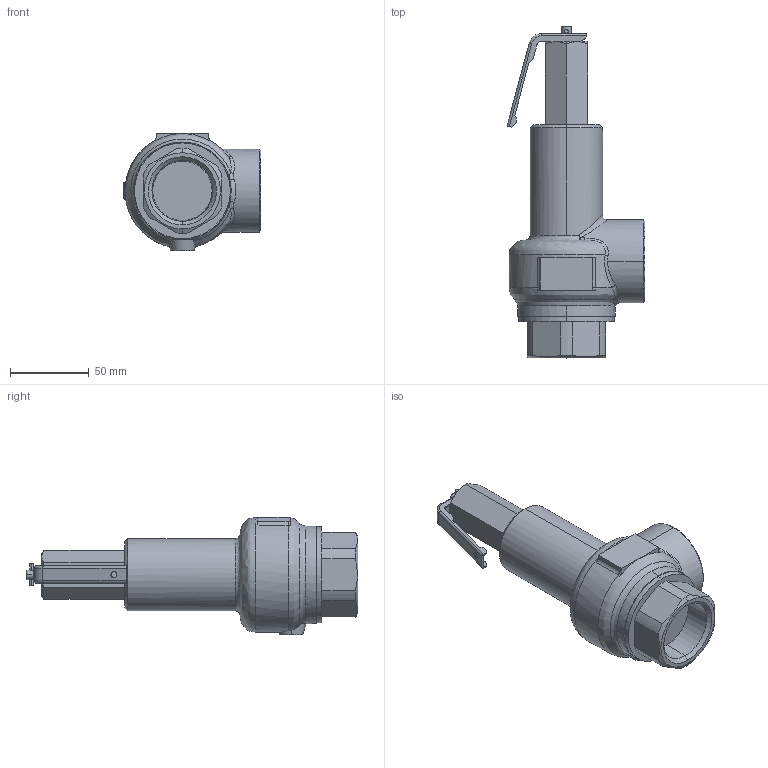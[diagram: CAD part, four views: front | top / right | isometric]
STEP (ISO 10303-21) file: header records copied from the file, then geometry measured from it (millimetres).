
FILE_DESCRIPTION( (''), '2;1');
FILE_NAME ('PC1276.14284.AL-140ML 32A_31098.stp','2025-12-05T09:03:43',(''),(''),'spGate 20.6.3 (****-****-****-****)','','');
FILE_SCHEMA (('AUTOMOTIVE_DESIGN'));
Length unit declared in the file: millimetre
Products named in the file (3): Assembly; AL-12 Lever; AL-140ML 32A(Non-Lever)
Assembly tree (2 placements, depth 2):
  Assembly
    AL-12 Lever
    AL-140ML 32A(Non-Lever)
Bounding box: 87.77 x 211.25 x 74.5 mm (x, y, z)
Volume: 405660.7 mm3; surface area: 47761.7 mm2
Topology: 2 solids, 2 shells, 145 faces, 361 edges, 229 vertices
Faces by surface type: plane 53, cylinder 46, bspline 44, sphere 2
Entity records: 8782 total; most frequent: CARTESIAN_POINT 2671, ORIENTED_EDGE 722, DIRECTION 599, COLOUR_RGB 508, PRESENTATION_STYLE_ASSIGNMENT 508, STYLED_ITEM 508, EDGE_CURVE 361, DRAUGHTING_PRE_DEFINED_CURVE_FONT 361
